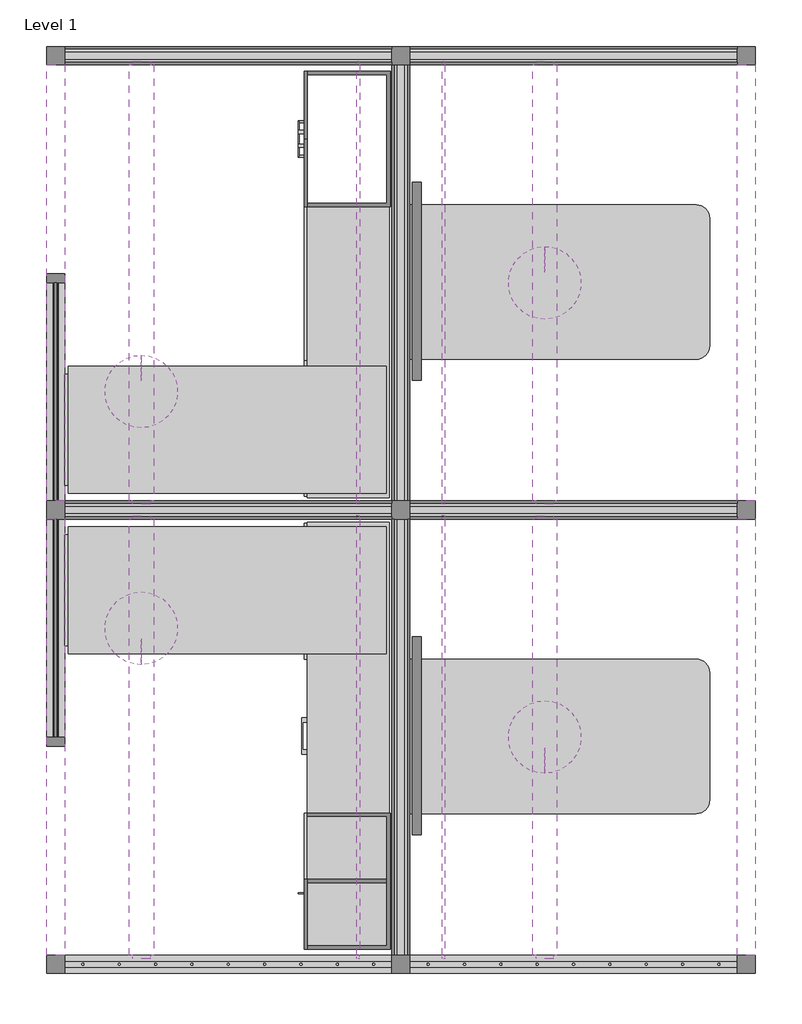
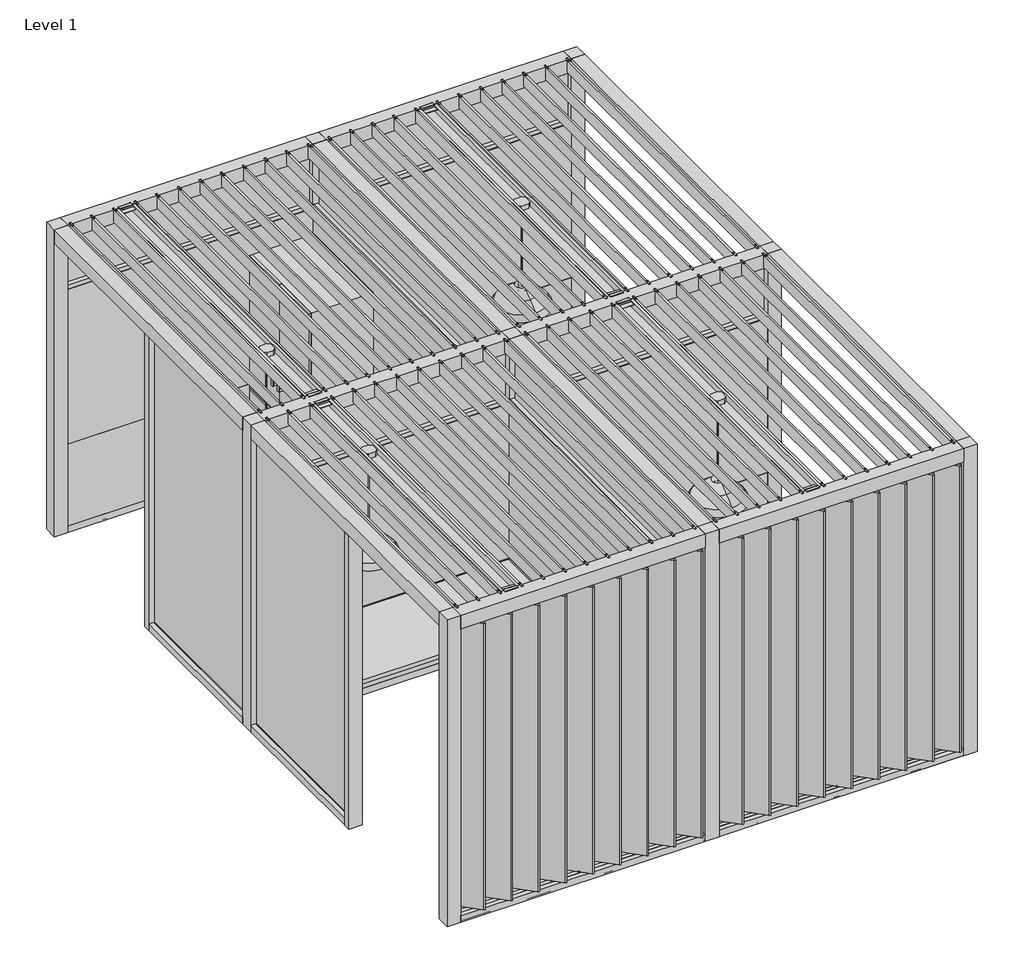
# One storey, incomplete: 49 furniture elements, 4 light fixtures.
"""IFC4 building model written with IfcOpenShell, lengths in millimetres."""

from ifc_helpers import new_model, si_unit, origin, place, context, project, spatial, transform, mapped, element, save
from components import furniture_f82028ea, furniture_03131fe9, furniture_d69a98cc, furniture_0dfae0ba, furniture_626a85f7, furniture_ea5179c6, furniture_34d_66w_54418c4b, five_high_7c8187b1, furniture_707b3127, haworth_pergola_ceiling_lighttrough_96w_c51599e8, haworth_pergola_ceiling_lighttrough_96w_c26e20a5, haworth_pergola_ceiling_lighttrough_96w_28d7c7ed, haworth_pergola_ceiling_lighttrough_96w_e1721e3f, haworth_pergola_ceiling_slat_72d_96w_dfd35486, haworth_pergola_ceiling_slat_72d_96w_01a6c2b5, haworth_pergola_panel_post1_ba5553ec, haworth_pergola_panel_post1_4695481a, haworth_pergola_panel_post1_2_way_connector_2_7bc44f38, haworth_pergola_panel_straighthorizontaltiles_e847dace, haworth_pergola_panel_straighthorizontaltiles_63bf140b, haworth_pergola_panel_straightverticaltiles_1b94613b, haworth_pergola_panel_straightverticaltiles_25d91abf, haworth_pergola_panel_toprail_straight_96w_3410b56a, haworth_pergola_panel_toprail_straight_96w_3731e667, haworth_pergola_slat_painted_straight_72w_08c36812, lateral_one_and_one_half_high_34w_b2feb271, open_one_and_one_half_high_30w_18d_b8389651, open_one_and_one_half_high_30w_18d_61f46755, open_one_and_one_half_high_34w_3a4066d6, lsp1_1610_a081eefe, lsp1_1610_0fb98976

model = new_model("IFC4")

# Units and contexts
model_context = context("Model", 3, world=origin())
ifc_project = project(units=[si_unit("LENGTHUNIT", "METRE", prefix="MILLI")], contexts=[model_context])

# Site, building, storey
site = spatial("IfcSite", under=ifc_project)
building = spatial("IfcBuilding", under=site)
storey = spatial("IfcBuildingStorey", under=building, Name="Level 1", Elevation=0.0)

# Furniture
placement = place(None, origin())
furniture_shape = furniture_f82028ea(model_context)
element("IfcFurniture", 1, ObjectType="Haworth_Masters_Wardrobe_OpenCabinet : 30w 19d 69h", at=placement, inside=storey, context=model_context, shape_type="MappedRepresentation", body=[
    mapped(furniture_shape, transform((-222.7728845, -2174.7233324, 0.0), x_axis=(-8.742277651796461e-08, 0.9999999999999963, 0.0), y_axis=(-0.9999999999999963, -8.742277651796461e-08, 0.0), z_axis=(0.0, 0.0, 1.0))),
])
furniture_2_shape = furniture_03131fe9(model_context)
element("IfcFurniture", 2, ObjectType="Haworth_Masters_Credenza_Desk.0001 : 28d 70w Credenza Desk - Shrouds", at=placement, inside=storey, context=model_context, shape_type="MappedRepresentation", body=[
    mapped(furniture_2_shape, transform((-969.1607047, -447.8884339, 0.0), x_axis=(1.0, 0.0, 0.0), y_axis=(0.0, 1.0, 0.0), z_axis=(0.0, 0.0, 1.0))),
])
furniture_3_shape = furniture_d69a98cc(model_context)
element("IfcFurniture", 3, ObjectType="Haworth_Masters_Credenza_Desk.0001 : 28d 70w Credenza Desk - Shrouds", at=placement, inside=storey, context=model_context, shape_type="MappedRepresentation", body=[
    mapped(furniture_3_shape, transform((-969.1607047, 449.5569522, 0.0), x_axis=(1.0, 0.0, 0.0), y_axis=(0.0, 1.0, 0.0), z_axis=(0.0, 0.0, 1.0))),
])
furniture_4_shape = furniture_0dfae0ba(model_context)
element("IfcFurniture", 4, ObjectType="Haworth_Masters_Accessories_ColumnBase : XZEC-2804", at=placement, inside=storey, context=model_context, shape_type="MappedRepresentation", body=[
    mapped(furniture_4_shape, transform((1451.8476875, 1141.5233527, 0.0), x_axis=(1.0, 0.0, 0.0), y_axis=(0.0, 1.0, 0.0), z_axis=(0.0, 0.0, 1.0))),
])
element("IfcFurniture", 5, ObjectType="Haworth_Masters_Accessories_ColumnBase : XZEC-2804", at=placement, inside=storey, context=model_context, shape_type="MappedRepresentation", body=[
    mapped(furniture_4_shape, transform((1451.8476875, -1398.4766473, 0.0), x_axis=(1.0, 0.0, 0.0), y_axis=(0.0, 1.0, 0.0), z_axis=(0.0, 0.0, 1.0))),
])
furniture_5_shape = furniture_626a85f7(model_context)
element("IfcFurniture", 6, ObjectType="Haworth_Masters_CommonTop : 18d 64w 1h - Inset Style", at=placement, inside=storey, context=model_context, shape_type="MappedRepresentation", body=[
    mapped(furniture_5_shape, transform((-292.7082818, -881.0156499, -157.1625), x_axis=(0.0, 1.0, 0.0), y_axis=(-1.0, 0.0, 0.0), z_axis=(0.0, 0.0, 1.0))),
])
furniture_6_shape = furniture_ea5179c6(model_context)
element("IfcFurniture", 7, ObjectType="Haworth_Masters_CommonTop : 18d 64w 1h - Inset Style", at=placement, inside=storey, context=model_context, shape_type="MappedRepresentation", body=[
    mapped(furniture_6_shape, transform((-292.7082697, 882.6841682, -157.1625), x_axis=(0.0, -1.0, 0.0), y_axis=(1.0, 0.0, 0.0), z_axis=(0.0, 0.0, 1.0))),
])
furniture_34d_66w_shape = furniture_34d_66w_54418c4b(model_context)
element("IfcFurniture", 8, ObjectType="Haworth_ActiveComponents_RectangleConvergentConferenceEnd : 34d 66w", at=placement, inside=storey, context=model_context, shape_type="MappedRepresentation", body=[
    mapped(furniture_34d_66w_shape, transform((445.0870059, 1474.7317617, 0.0), x_axis=(1.0, 1.1924878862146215e-08, 0.0), y_axis=(-1.1924878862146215e-08, 1.0, 0.0), z_axis=(0.0, 0.0, 1.0))),
])
element("IfcFurniture", 9, ObjectType="Haworth_ActiveComponents_RectangleConvergentConferenceEnd : 34d 66w", at=placement, inside=storey, context=model_context, shape_type="MappedRepresentation", body=[
    mapped(furniture_34d_66w_shape, transform((445.0870059, -1065.2682383, 0.0), x_axis=(1.0, 1.1924878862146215e-08, 0.0), y_axis=(-1.1924878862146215e-08, 1.0, 0.0), z_axis=(0.0, 0.0, 1.0))),
])
five_high_shape = five_high_7c8187b1(model_context)
element("IfcFurniture", 10, ObjectType="Haworth_Masters_Combo_Lateral FIX : Five High", at=placement, inside=storey, context=model_context, shape_type="MappedRepresentation", body=[
    mapped(five_high_shape, transform((-57.7582028, 2154.2716628, 0.0), x_axis=(0.0, -1.0, 0.0), y_axis=(1.0, 0.0, 0.0), z_axis=(0.0, 0.0, 1.0))),
])
furniture_7_shape = furniture_707b3127(model_context)
element("IfcFurniture", 11, ObjectType="Haworth_Accessory_Monitor : Monitor 50\"", at=placement, inside=storey, context=model_context, shape_type="MappedRepresentation", body=[
    mapped(furniture_7_shape, transform((102.9870462, -1719.7677005, 914.4), x_axis=(0.0, 1.0, 0.0), y_axis=(-1.0, 0.0, 0.0), z_axis=(0.0, 0.0, 1.0))),
])
element("IfcFurniture", 12, ObjectType="Haworth_Accessory_Monitor : Monitor 50\"", at=placement, inside=storey, context=model_context, shape_type="MappedRepresentation", body=[
    mapped(furniture_7_shape, transform((102.9870462, 820.2313556, 914.4), x_axis=(0.0, 1.0, 0.0), y_axis=(-1.0, 0.0, 0.0), z_axis=(0.0, 0.0, 1.0))),
])
haworth_pergola_ceiling_lighttrough_96w_shape = haworth_pergola_ceiling_lighttrough_96w_c51599e8(model_context)
element("IfcFurniture", 13, ObjectType="Haworth_Pergola_Ceiling_LightTrough : 96w", at=placement, inside=storey, context=model_context, shape_type="MappedRepresentation", body=[
    mapped(haworth_pergola_ceiling_lighttrough_96w_shape, transform((805.3688634, -888.9657726, 0.0), x_axis=(0.0, -1.0, 0.0), y_axis=(1.0, 0.0, 0.0), z_axis=(0.0, 0.0, 1.0))),
])
haworth_pergola_ceiling_lighttrough_96w_2_shape = haworth_pergola_ceiling_lighttrough_96w_c26e20a5(model_context)
element("IfcFurniture", 14, ObjectType="Haworth_Pergola_Ceiling_LightTrough : 96w", at=placement, inside=storey, context=model_context, shape_type="MappedRepresentation", body=[
    mapped(haworth_pergola_ceiling_lighttrough_96w_2_shape, transform((-1449.1402255, 890.6342274, 0.0), x_axis=(0.0, 1.0, 0.0), y_axis=(-1.0, 0.0, 0.0), z_axis=(0.0, 0.0, 1.0))),
])
haworth_pergola_ceiling_lighttrough_96w_3_shape = haworth_pergola_ceiling_lighttrough_96w_28d7c7ed(model_context)
element("IfcFurniture", 15, ObjectType="Haworth_Pergola_Ceiling_LightTrough : 96w", at=placement, inside=storey, context=model_context, shape_type="MappedRepresentation", body=[
    mapped(haworth_pergola_ceiling_lighttrough_96w_3_shape, transform((-1449.1402255, -888.9657726, 0.0), x_axis=(0.0, -1.0, 0.0), y_axis=(1.0, 0.0, 0.0), z_axis=(0.0, 0.0, 1.0))),
])
haworth_pergola_ceiling_lighttrough_96w_4_shape = haworth_pergola_ceiling_lighttrough_96w_e1721e3f(model_context)
element("IfcFurniture", 16, ObjectType="Haworth_Pergola_Ceiling_LightTrough : 96w", at=placement, inside=storey, context=model_context, shape_type="MappedRepresentation", body=[
    mapped(haworth_pergola_ceiling_lighttrough_96w_4_shape, transform((805.3688634, 890.6342274, 0.0), x_axis=(0.0, 1.0, 0.0), y_axis=(-1.0, 0.0, 0.0), z_axis=(0.0, 0.0, 1.0))),
])
haworth_pergola_ceiling_slat_72d_96w_shape = haworth_pergola_ceiling_slat_72d_96w_dfd35486(model_context)
element("IfcFurniture", 17, ObjectType="Haworth_Pergola_Ceiling_Slat : 72d 96w", at=placement, inside=storey, context=model_context, shape_type="MappedRepresentation", body=[
    mapped(haworth_pergola_ceiling_slat_72d_96w_shape, transform((-2303.6629538, 1232.7342274, 0.0), x_axis=(0.0, 1.0, 0.0), y_axis=(-1.0, 0.0, 0.0), z_axis=(0.0, 0.0, 1.0))),
])
element("IfcFurniture", 18, ObjectType="Haworth_Pergola_Ceiling_Slat : 72d 96w", at=placement, inside=storey, context=model_context, shape_type="MappedRepresentation", body=[
    mapped(haworth_pergola_ceiling_slat_72d_96w_shape, transform((2306.4370462, -1231.0657726, 0.0), x_axis=(0.0, -1.0, 0.0), y_axis=(1.0, 0.0, 0.0), z_axis=(0.0, 0.0, 1.0))),
])
haworth_pergola_ceiling_slat_72d_96w_2_shape = haworth_pergola_ceiling_slat_72d_96w_01a6c2b5(model_context)
element("IfcFurniture", 19, ObjectType="Haworth_Pergola_Ceiling_Slat : 72d 96w", at=placement, inside=storey, context=model_context, shape_type="MappedRepresentation", body=[
    mapped(haworth_pergola_ceiling_slat_72d_96w_2_shape, transform((-2303.6629538, -1231.0657726, 0.0), x_axis=(0.0, -1.0, 0.0), y_axis=(1.0, 0.0, 0.0), z_axis=(0.0, 0.0, 1.0))),
])
element("IfcFurniture", 20, ObjectType="Haworth_Pergola_Ceiling_Slat : 72d 96w", at=placement, inside=storey, context=model_context, shape_type="MappedRepresentation", body=[
    mapped(haworth_pergola_ceiling_slat_72d_96w_2_shape, transform((2306.4370462, 1232.7342274, 0.0), x_axis=(0.0, 1.0, 0.0), y_axis=(-1.0, 0.0, 0.0), z_axis=(0.0, 0.0, 1.0))),
])
haworth_pergola_panel_post1_shape = haworth_pergola_panel_post1_ba5553ec(model_context)
element("IfcFurniture", 21, ObjectType="Haworth_Pergola_Panel_Post1 : Underbeam Eor", at=placement, inside=storey, context=model_context, shape_type="MappedRepresentation", body=[
    mapped(haworth_pergola_panel_post1_shape, transform((-1929.0129817, 1283.5353101, 0.0), x_axis=(0.0, 1.0, 0.0), y_axis=(-1.0, 0.0, 0.0), z_axis=(0.0, 0.0, 1.0))),
])
haworth_pergola_panel_post1_2_shape = haworth_pergola_panel_post1_4695481a(model_context)
element("IfcFurniture", 22, ObjectType="Haworth_Pergola_Panel_Post1 : Underbeam Eor", at=placement, inside=storey, context=model_context, shape_type="MappedRepresentation", body=[
    mapped(haworth_pergola_panel_post1_2_shape, transform((-1929.0129817, -1281.8668552, 0.0), x_axis=(0.0, -1.0, 0.0), y_axis=(1.0, 0.0, 0.0), z_axis=(0.0, 0.0, 1.0))),
])
haworth_pergola_panel_post1_2_way_connector_2_shape = haworth_pergola_panel_post1_2_way_connector_2_7bc44f38(model_context)
element("IfcFurniture", 23, ObjectType="Haworth_Pergola_Panel_Post1 : 2-Way Connector 2", at=placement, inside=storey, context=model_context, shape_type="MappedRepresentation", body=[
    mapped(haworth_pergola_panel_post1_2_way_connector_2_shape, transform((-1967.1130185, 2540.8353101, 0.0), x_axis=(1.0, 0.0, 0.0), y_axis=(0.0, 1.0, 0.0), z_axis=(0.0, 0.0, 1.0))),
])
element("IfcFurniture", 24, ObjectType="Haworth_Pergola_Panel_Post1 : 2-Way Connector 2", at=placement, inside=storey, context=model_context, shape_type="MappedRepresentation", body=[
    mapped(haworth_pergola_panel_post1_2_way_connector_2_shape, transform((1893.6869815, 2540.8353101, 0.0), x_axis=(1.0, 0.0, 0.0), y_axis=(0.0, 1.0, 0.0), z_axis=(0.0, 0.0, 1.0))),
])
element("IfcFurniture", 25, ObjectType="Haworth_Pergola_Panel_Post1 : 2-Way Connector 2", at=placement, inside=storey, context=model_context, shape_type="MappedRepresentation", body=[
    mapped(haworth_pergola_panel_post1_2_way_connector_2_shape, transform((1893.6869815, -2539.1646899, 0.0), x_axis=(1.0, 0.0, 0.0), y_axis=(0.0, 1.0, 0.0), z_axis=(0.0, 0.0, 1.0))),
])
element("IfcFurniture", 26, ObjectType="Haworth_Pergola_Panel_Post1 : 2-Way Connector 2", at=placement, inside=storey, context=model_context, shape_type="MappedRepresentation", body=[
    mapped(haworth_pergola_panel_post1_2_way_connector_2_shape, transform((-1967.1130185, -2539.1646899, 0.0), x_axis=(1.0, 0.0, 0.0), y_axis=(0.0, 1.0, 0.0), z_axis=(0.0, 0.0, 1.0))),
])
element("IfcFurniture", 27, ObjectType="Haworth_Pergola_Panel_Post1 : 3-Way Connector 2", at=placement, inside=storey, context=model_context, shape_type="MappedRepresentation", body=[
    mapped(haworth_pergola_panel_post1_2_way_connector_2_shape, transform((1893.6870462, 0.8343962, 0.0), x_axis=(1.0, 0.0, 0.0), y_axis=(0.0, 1.0, 0.0), z_axis=(0.0, 0.0, 1.0))),
])
element("IfcFurniture", 28, ObjectType="Haworth_Pergola_Panel_Post1 : 3-Way Connector 2", at=placement, inside=storey, context=model_context, shape_type="MappedRepresentation", body=[
    mapped(haworth_pergola_panel_post1_2_way_connector_2_shape, transform((-36.7129538, -2539.1648287, 0.0), x_axis=(1.0, 0.0, 0.0), y_axis=(0.0, 1.0, 0.0), z_axis=(0.0, 0.0, 1.0))),
])
element("IfcFurniture", 29, ObjectType="Haworth_Pergola_Panel_Post1 : 3-Way Connector 2", at=placement, inside=storey, context=model_context, shape_type="MappedRepresentation", body=[
    mapped(haworth_pergola_panel_post1_2_way_connector_2_shape, transform((-1967.1130185, 0.8353101, 0.0), x_axis=(1.0, 0.0, 0.0), y_axis=(0.0, 1.0, 0.0), z_axis=(0.0, 0.0, 1.0))),
])
element("IfcFurniture", 30, ObjectType="Haworth_Pergola_Panel_Post1 : 3-Way Connector 2", at=placement, inside=storey, context=model_context, shape_type="MappedRepresentation", body=[
    mapped(haworth_pergola_panel_post1_2_way_connector_2_shape, transform((-36.7129581, 2540.83507, 0.0), x_axis=(1.0, 0.0, 0.0), y_axis=(0.0, 1.0, 0.0), z_axis=(0.0, 0.0, 1.0))),
])
element("IfcFurniture", 31, ObjectType="Haworth_Pergola_Panel_Post1 : 4-Way Connector", at=placement, inside=storey, context=model_context, shape_type="MappedRepresentation", body=[
    mapped(haworth_pergola_panel_post1_2_way_connector_2_shape, transform((-36.7129538, 0.8342274, 0.0), x_axis=(1.0, 0.0, 0.0), y_axis=(0.0, 1.0, 0.0), z_axis=(0.0, 0.0, 1.0))),
])
haworth_pergola_panel_straighthorizontaltiles_shape = haworth_pergola_panel_straighthorizontaltiles_e847dace(model_context)
element("IfcFurniture", 32, ObjectType="Haworth_Pergola_Panel_StraightHorizontalTiles : Horizontal Tiles (28h 48h 16h)- 96h 96w", at=placement, inside=storey, context=model_context, shape_type="MappedRepresentation", body=[
    mapped(haworth_pergola_panel_straighthorizontaltiles_shape, transform((1.3870462, -1307.2648287, 0.0), x_axis=(0.0, 1.0, 0.0), y_axis=(-1.0, 0.0, 0.0), z_axis=(0.0, 0.0, 1.0))),
])
element("IfcFurniture", 33, ObjectType="Haworth_Pergola_Panel_StraightHorizontalTiles : Horizontal Tiles (28h 48h 16h)- 96h 96w", at=placement, inside=storey, context=model_context, shape_type="MappedRepresentation", body=[
    mapped(haworth_pergola_panel_straighthorizontaltiles_shape, transform((1.3870462, 1232.7342274, 0.0), x_axis=(0.0, 1.0, 0.0), y_axis=(-1.0, 0.0, 0.0), z_axis=(0.0, 0.0, 1.0))),
])
haworth_pergola_panel_straighthorizontaltiles_2_shape = haworth_pergola_panel_straighthorizontaltiles_63bf140b(model_context)
element("IfcFurniture", 34, ObjectType="Haworth_Pergola_Panel_StraightHorizontalTiles : Horizontal Tiles (28h 48h 16h)- 96h 72w", at=placement, inside=storey, context=model_context, shape_type="MappedRepresentation", body=[
    mapped(haworth_pergola_panel_straighthorizontaltiles_2_shape, transform((928.4870419, 2540.83507, 0.0), x_axis=(1.0, 0.0, 0.0), y_axis=(0.0, 1.0, 0.0), z_axis=(0.0, 0.0, 1.0))),
])
element("IfcFurniture", 35, ObjectType="Haworth_Pergola_Panel_StraightHorizontalTiles : Horizontal Tiles (28h 48h 16h)- 96h 72w", at=placement, inside=storey, context=model_context, shape_type="MappedRepresentation", body=[
    mapped(haworth_pergola_panel_straighthorizontaltiles_2_shape, transform((928.4870419, 0.8342274, 0.0), x_axis=(1.0, 0.0, 0.0), y_axis=(0.0, 1.0, 0.0), z_axis=(0.0, 0.0, 1.0))),
])
element("IfcFurniture", 36, ObjectType="Haworth_Pergola_Panel_StraightHorizontalTiles : Horizontal Tiles (28h 48h 16h)- 96h 72w", at=placement, inside=storey, context=model_context, shape_type="MappedRepresentation", body=[
    mapped(haworth_pergola_panel_straighthorizontaltiles_2_shape, transform((-1001.9130185, 2540.83507, 0.0), x_axis=(1.0, 0.0, 0.0), y_axis=(0.0, 1.0, 0.0), z_axis=(0.0, 0.0, 1.0))),
])
element("IfcFurniture", 37, ObjectType="Haworth_Pergola_Panel_StraightHorizontalTiles : Horizontal Tiles (28h 48h 16h)- 96h 72w", at=placement, inside=storey, context=model_context, shape_type="MappedRepresentation", body=[
    mapped(haworth_pergola_panel_straighthorizontaltiles_2_shape, transform((-1001.9130185, 0.8342274, 0.0), x_axis=(1.0, 0.0, 0.0), y_axis=(0.0, 1.0, 0.0), z_axis=(0.0, 0.0, 1.0))),
])
haworth_pergola_panel_straightverticaltiles_shape = haworth_pergola_panel_straightverticaltiles_1b94613b(model_context)
element("IfcFurniture", 38, ObjectType="Haworth_Pergola_Panel_StraightVerticalTiles : Vertical Tiles - 96h 48w - (48w)", at=placement, inside=storey, context=model_context, shape_type="MappedRepresentation", body=[
    mapped(haworth_pergola_panel_straightverticaltiles_shape, transform((-1929.0129817, 623.1353101, 0.0), x_axis=(0.0, 1.0, 0.0), y_axis=(-1.0, 0.0, 0.0), z_axis=(0.0, 0.0, 1.0))),
])
haworth_pergola_panel_straightverticaltiles_2_shape = haworth_pergola_panel_straightverticaltiles_25d91abf(model_context)
element("IfcFurniture", 39, ObjectType="Haworth_Pergola_Panel_StraightVerticalTiles : Vertical Tiles - 96h 48w - (48w)", at=placement, inside=storey, context=model_context, shape_type="MappedRepresentation", body=[
    mapped(haworth_pergola_panel_straightverticaltiles_2_shape, transform((-1929.0129817, -621.4668552, 0.0), x_axis=(0.0, -1.0, 0.0), y_axis=(1.0, 0.0, 0.0), z_axis=(0.0, 0.0, 1.0))),
])
haworth_pergola_panel_toprail_straight_96w_shape = haworth_pergola_panel_toprail_straight_96w_3410b56a(model_context)
element("IfcFurniture", 40, ObjectType="Haworth_Pergola_Panel_TopRail_Straight : 96w", at=placement, inside=storey, context=model_context, shape_type="MappedRepresentation", body=[
    mapped(haworth_pergola_panel_toprail_straight_96w_shape, transform((-1929.0130185, -240.4646899, 0.0), x_axis=(0.0, 1.0, 0.0), y_axis=(-1.0, 0.0, 0.0), z_axis=(0.0, 0.0, 1.0))),
])
element("IfcFurniture", 41, ObjectType="Haworth_Pergola_Panel_TopRail_Straight : 96w", at=placement, inside=storey, context=model_context, shape_type="MappedRepresentation", body=[
    mapped(haworth_pergola_panel_toprail_straight_96w_shape, transform((1931.7869815, -2780.4772952, 0.0), x_axis=(0.0, 1.0, 0.0), y_axis=(-1.0, 0.0, 0.0), z_axis=(0.0, 0.0, 1.0))),
])
haworth_pergola_panel_toprail_straight_96w_2_shape = haworth_pergola_panel_toprail_straight_96w_3731e667(model_context)
element("IfcFurniture", 42, ObjectType="Haworth_Pergola_Panel_TopRail_Straight : 96w", at=placement, inside=storey, context=model_context, shape_type="MappedRepresentation", body=[
    mapped(haworth_pergola_panel_toprail_straight_96w_2_shape, transform((-1929.0130185, 242.1353101, 0.0), x_axis=(0.0, -1.0, 0.0), y_axis=(1.0, 0.0, 0.0), z_axis=(0.0, 0.0, 1.0))),
])
element("IfcFurniture", 43, ObjectType="Haworth_Pergola_Panel_TopRail_Straight : 96w", at=placement, inside=storey, context=model_context, shape_type="MappedRepresentation", body=[
    mapped(haworth_pergola_panel_toprail_straight_96w_2_shape, transform((1931.7869815, 2782.1460876, 0.0), x_axis=(0.0, -1.0, 0.0), y_axis=(1.0, 0.0, 0.0), z_axis=(0.0, 0.0, 1.0))),
])
haworth_pergola_slat_painted_straight_72w_shape = haworth_pergola_slat_painted_straight_72w_08c36812(model_context)
element("IfcFurniture", 44, ObjectType="Haworth_Pergola_Slat_Painted_Straight : 72w", at=placement, inside=storey, context=model_context, shape_type="MappedRepresentation", body=[
    mapped(haworth_pergola_slat_painted_straight_72w_shape, transform((928.4870419, -2539.1648287, 0.0), x_axis=(1.0, 0.0, 0.0), y_axis=(0.0, 1.0, 0.0), z_axis=(0.0, 0.0, 1.0))),
])
element("IfcFurniture", 45, ObjectType="Haworth_Pergola_Slat_Painted_Straight : 72w", at=placement, inside=storey, context=model_context, shape_type="MappedRepresentation", body=[
    mapped(haworth_pergola_slat_painted_straight_72w_shape, transform((-1001.9130185, -2539.1648287, 0.0), x_axis=(1.0, 0.0, 0.0), y_axis=(0.0, 1.0, 0.0), z_axis=(0.0, 0.0, 1.0))),
])
lateral_one_and_one_half_high_34w_shape = lateral_one_and_one_half_high_34w_b2feb271(model_context)
element("IfcFurniture", 46, ObjectType="Haworth_Masters_AttachedStorage : Lateral - One and One Half High - 34w", at=placement, inside=storey, context=model_context, shape_type="MappedRepresentation", body=[
    mapped(lateral_one_and_one_half_high_34w_shape, transform((37.4916714, -1184.2281002, 0.0), x_axis=(8.742278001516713e-08, -0.9999999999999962, 0.0), y_axis=(0.9999999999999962, 8.742278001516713e-08, 0.0), z_axis=(0.0, 0.0, 1.0))),
])
open_one_and_one_half_high_30w_18d_shape = open_one_and_one_half_high_30w_18d_b8389651(model_context)
element("IfcFurniture", 47, ObjectType="Haworth_Masters_AttachedStorage : Open - One and One Half High - 30w 18d", at=placement, inside=storey, context=model_context, shape_type="MappedRepresentation", body=[
    mapped(open_one_and_one_half_high_30w_18d_shape, transform((18.441745, -374.6031016, 0.0), x_axis=(8.742278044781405e-08, -0.9999999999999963, 0.0), y_axis=(0.9999999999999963, 8.742278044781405e-08, 0.0), z_axis=(0.0, 0.0, 1.0))),
])
open_one_and_one_half_high_30w_18d_2_shape = open_one_and_one_half_high_30w_18d_61f46755(model_context)
element("IfcFurniture", 48, ObjectType="Haworth_Masters_AttachedStorage : Open - One and One Half High - 30w 18d", at=placement, inside=storey, context=model_context, shape_type="MappedRepresentation", body=[
    mapped(open_one_and_one_half_high_30w_18d_2_shape, transform((18.4418234, 376.2716205, 0.0), x_axis=(8.742278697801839e-08, 0.9999999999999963, 0.0), y_axis=(-0.9999999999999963, 8.742278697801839e-08, 0.0), z_axis=(0.0, 0.0, 1.0))),
])
open_one_and_one_half_high_34w_shape = open_one_and_one_half_high_34w_3a4066d6(model_context)
element("IfcFurniture", 49, ObjectType="Haworth_Masters_AttachedStorage : Open - One and One Half High - 34w", at=placement, inside=storey, context=model_context, shape_type="MappedRepresentation", body=[
    mapped(open_one_and_one_half_high_34w_shape, transform((18.4418301, 1185.8966695, 0.0), x_axis=(8.742278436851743e-08, 0.9999999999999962, 0.0), y_axis=(-0.9999999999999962, 8.742278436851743e-08, 0.0), z_axis=(0.0, 0.0, 1.0))),
])

# Light fixtures
lsp1_1610_shape = lsp1_1610_a081eefe(model_context)
element("IfcLightFixture", 50, ObjectType="Haworth_Swell_PendantOneLight : LSP1-1610", at=placement, inside=storey, context=model_context, shape_type="MappedRepresentation", body=[
    mapped(lsp1_1610_shape, transform((-1226.586472, 1077.9066865, -716.1609375), x_axis=(0.0, 1.0, 0.0), y_axis=(-1.0, 0.0, 0.0), z_axis=(0.0, 0.0, 1.0))),
])
element("IfcLightFixture", 51, ObjectType="Haworth_Swell_PendantOneLight : LSP1-1610", at=placement, inside=storey, context=model_context, shape_type="MappedRepresentation", body=[
    mapped(lsp1_1610_shape, transform((1029.6220733, 1685.3875676, -716.1609375), x_axis=(0.0, 1.0, 0.0), y_axis=(-1.0, 0.0, 0.0), z_axis=(0.0, 0.0, 1.0))),
])
lsp1_1610_2_shape = lsp1_1610_0fb98976(model_context)
element("IfcLightFixture", 52, ObjectType="Haworth_Swell_PendantOneLight : LSP1-1610", at=placement, inside=storey, context=model_context, shape_type="MappedRepresentation", body=[
    mapped(lsp1_1610_2_shape, transform((-1226.586472, -1076.2382316, -716.1609375), x_axis=(0.0, -1.0, 0.0), y_axis=(1.0, 0.0, 0.0), z_axis=(0.0, 0.0, 1.0))),
])
element("IfcLightFixture", 53, ObjectType="Haworth_Swell_PendantOneLight : LSP1-1610", at=placement, inside=storey, context=model_context, shape_type="MappedRepresentation", body=[
    mapped(lsp1_1610_2_shape, transform((1029.6220733, -1683.7191127, -716.1609375), x_axis=(0.0, -1.0, 0.0), y_axis=(1.0, 0.0, 0.0), z_axis=(0.0, 0.0, 1.0))),
])

save(model, "model.ifc")
